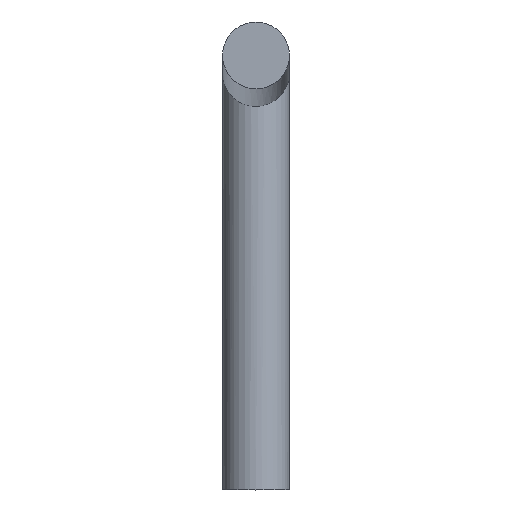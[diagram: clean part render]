
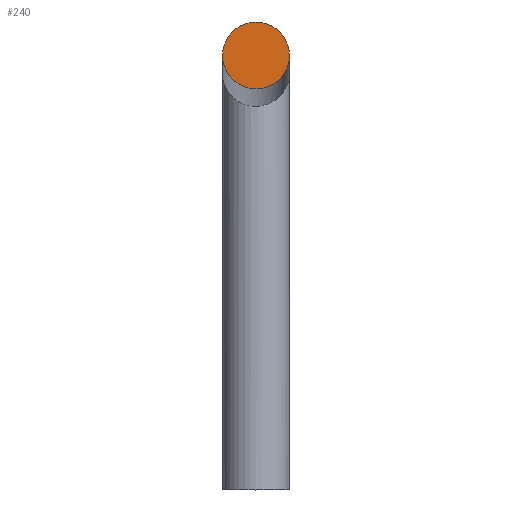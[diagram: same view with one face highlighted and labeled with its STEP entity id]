
A CAD part, top view. The second image highlights one B-rep face of the part: STEP entity #240.
In plain terms, the highlighted planar face has unit normal (0, 0, 1).
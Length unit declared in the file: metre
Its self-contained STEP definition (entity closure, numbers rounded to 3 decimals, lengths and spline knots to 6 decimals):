
#5 = CARTESIAN_POINT('', (0.000321, 0, 0.048));
#6 = VERTEX_POINT('', #5);
#7 = CARTESIAN_POINT('', (0, 0., 0.048));
#8 = VERTEX_POINT('', #7);
#32 = DIRECTION('', (1, 0., 0));
#33 = DIRECTION('', (0, -0, 1));
#34 = CARTESIAN_POINT('', (0.000161, 0., 0.048));
#35 = AXIS2_PLACEMENT_3D('', #34, #33, #32);
#36 = CIRCLE('', #35, 0.000161);
#37 = DIRECTION('', (-1, 0., 0));
#38 = DIRECTION('', (0, -0, 1));
#39 = CARTESIAN_POINT('', (0.00016, 0., 0.048));
#40 = AXIS2_PLACEMENT_3D('', #39, #38, #37);
#41 = CIRCLE('', #40, 0.00016);
#184 = EDGE_CURVE('', #6, #8, #36, .T.);
#185 = EDGE_CURVE('', #8, #6, #41, .T.);
#206 = CARTESIAN_POINT('', (0, 0, 0.048));
#207 = DIRECTION('', (0, -0, 1));
#208 = AXIS2_PLACEMENT_3D('', #206, #207, $);
#209 = PLANE('', #208);
#236 = ORIENTED_EDGE('', *, *, #184, .T.);
#237 = ORIENTED_EDGE('', *, *, #185, .T.);
#238 = EDGE_LOOP('', (#236, #237));
#239 = FACE_BOUND('', #238, .T.);
#240 = ADVANCED_FACE('', (#239), #209, .T.);
